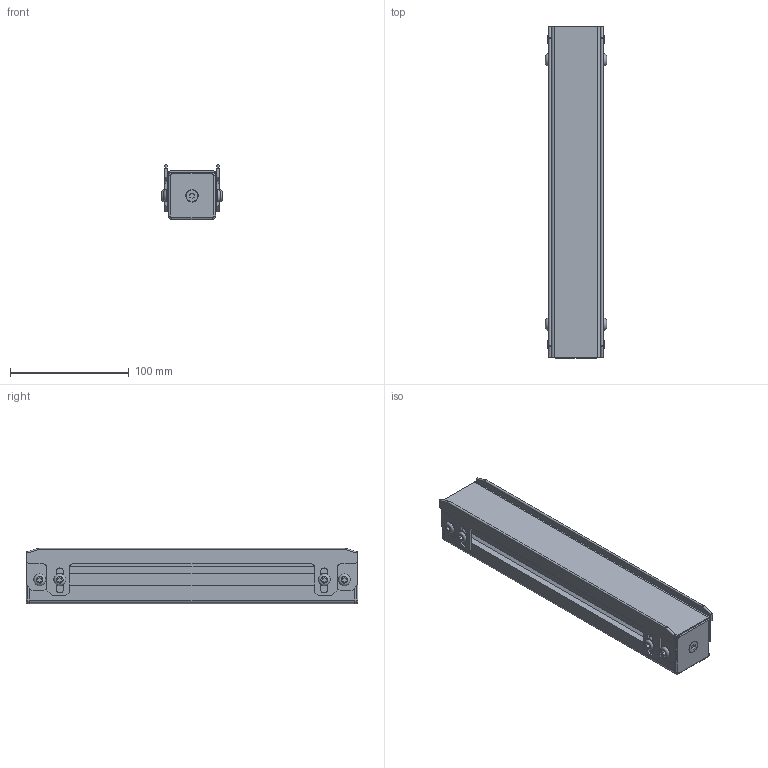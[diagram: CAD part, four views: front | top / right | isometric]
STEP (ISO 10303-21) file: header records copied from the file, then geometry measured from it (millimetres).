
FILE_DESCRIPTION(/* description */ (''),/* implementation_level */ '2;1');
FILE_NAME(/* name */ 'MGSS-FA-4040x280H.step',/* time_stamp */ '2022-12-15T12:57:34+09:00',/* author */ (''),/* organization */ (''),/* preprocessor_version */ 'ST-DEVELOPER v19.2',/* originating_system */ 'Autodesk Translation Framework v11.17.0.187',/* authorisation */ '');
FILE_SCHEMA (('AUTOMOTIVE_DESIGN { 1 0 10303 214 3 1 1 }'));
Length unit declared in the file: millimetre
Products named in the file (1): MGSS-FA-4040x280H
Bounding box: 51.6 x 280 x 46.5 mm (x, y, z)
Volume: 222308.4 mm3; surface area: 193275.4 mm2
Topology: 16 solids, 16 shells, 352 faces, 928 edges, 610 vertices
Faces by surface type: plane 236, cylinder 88, bspline 8, torus 8, sphere 8, cone 4
Full cylindrical faces by diameter (mm): 5 x2, 6 x4, 10 x8
Entity records: 10996 total; most frequent: CARTESIAN_POINT 1955, ORIENTED_EDGE 1856, DIRECTION 1844, EDGE_CURVE 928, LINE 702, VECTOR 702, VERTEX_POINT 610, AXIS2_PLACEMENT_3D 571
